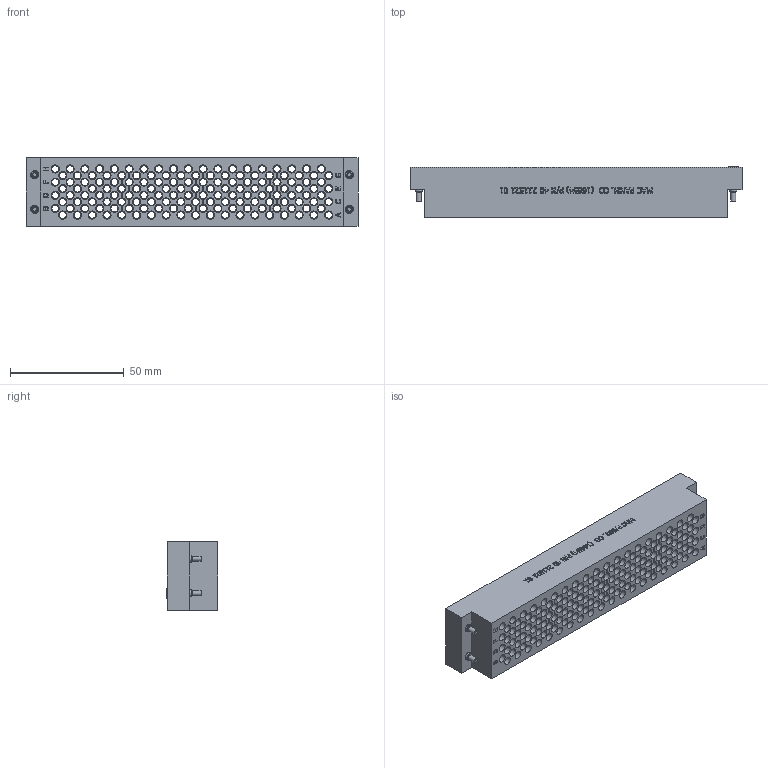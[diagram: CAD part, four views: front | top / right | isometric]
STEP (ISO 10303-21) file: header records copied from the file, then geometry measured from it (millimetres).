
FILE_DESCRIPTION(/* description */ (''),/* implementation_level */ '2;1');
FILE_NAME(/* name */ 'F:\CAD\CAD COMPLETE\web site project\ITA Modules\40-211521-01-RevD-STP\40-211521-01-RevD-STP.stp',/* time_stamp */ '2016-01-15T14:56:23+00:00',/* author */ ('davecooper'),/* organization */ (''),/* preprocessor_version */ 'ST-DEVELOPER v15.2',/* originating_system */ 'Autodesk Inventor 2014',/* authorisation */ '');
FILE_SCHEMA (('AUTOMOTIVE_DESIGN { 1 0 10303 214 3 1 1 }'));
Length unit declared in the file: inch
Products named in the file (1): 40-211521-01-CU
Bounding box: 146.05 x 22.85 x 29.97 mm (x, y, z)
Surface area: 41644.1 mm2 (no closed solid volume)
Topology: 0 solids, 5 shells, 1582 faces, 3524 edges, 2340 vertices
Faces by surface type: plane 825, cylinder 488, bspline 241, cone 16, torus 12
Full cylindrical faces by diameter (mm): 1.905 x4, 2.184 x4, 2.388 x4, 2.997 x152, 3.137 x4, 3.454 x4, 3.556 x304, 4.381 x4, 4.775 x4
Entity records: 44794 total; most frequent: CARTESIAN_POINT 10140, DIRECTION 6170, ORIENTED_EDGE 6000, EDGE_CURVE 3000, EDGE_LOOP 2794, AXIS2_PLACEMENT_3D 2358, VERTEX_POINT 2328, STYLED_ITEM 1582
